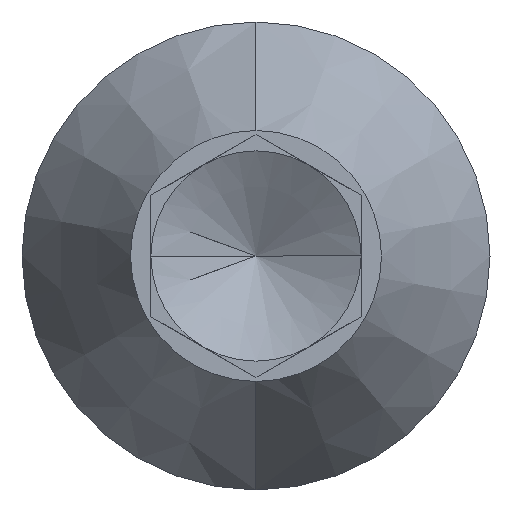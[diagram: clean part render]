
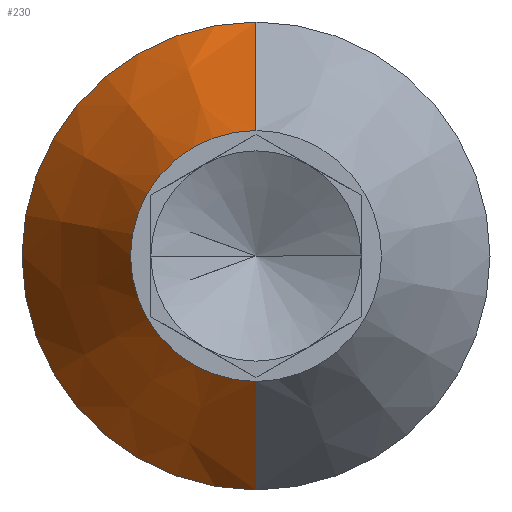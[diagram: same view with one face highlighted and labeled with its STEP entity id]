
A CAD part, left-side view. The second image highlights one B-rep face of the part: STEP entity #230.
In plain terms, the highlighted conical face has half-angle 30 degrees and reference radius 1.753 mm.
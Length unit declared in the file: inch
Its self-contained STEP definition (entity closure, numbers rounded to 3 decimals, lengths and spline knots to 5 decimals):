
#226 = EDGE_LOOP ( 'NONE', ( #232, #253, #250, #248 ) ) ;
#227 = VERTEX_POINT ( 'NONE', #729 ) ;
#230 = ADVANCED_FACE ( 'NONE', ( #783 ), #782, .T. ) ;
#232 = ORIENTED_EDGE ( 'NONE', *, *, #240, .F. ) ;
#239 = VERTEX_POINT ( 'NONE', #769 ) ;
#240 = EDGE_CURVE ( 'NONE', #227, #239, #768, .T. ) ;
#246 = VERTEX_POINT ( 'NONE', #818 ) ;
#247 = EDGE_CURVE ( 'NONE', #246, #251, #813, .T. ) ;
#248 = ORIENTED_EDGE ( 'NONE', *, *, #249, .F. ) ;
#249 = EDGE_CURVE ( 'NONE', #239, #246, #814, .T. ) ;
#250 = ORIENTED_EDGE ( 'NONE', *, *, #247, .F. ) ;
#251 = VERTEX_POINT ( 'NONE', #805 ) ;
#252 = EDGE_CURVE ( 'NONE', #227, #251, #804, .T. ) ;
#253 = ORIENTED_EDGE ( 'NONE', *, *, #252, .T. ) ;
#729 = CARTESIAN_POINT ( 'NONE',  ( 0., 0., 0.037 ) ) ;
#764 = DIRECTION ( 'NONE',  ( 0., 0., -1. ) ) ;
#765 = DIRECTION ( 'NONE',  ( -1., 0., 0. ) ) ;
#766 = CARTESIAN_POINT ( 'NONE',  ( 0., 0., 0. ) ) ;
#767 = AXIS2_PLACEMENT_3D ( 'NONE', #766, #765, #764 ) ;
#768 = CIRCLE ( 'NONE', #767, 0.037 ) ;
#769 = CARTESIAN_POINT ( 'NONE',  ( 0., 0., -0.037 ) ) ;
#777 = DIRECTION ( 'NONE',  ( 0., 0., -1. ) ) ;
#778 = DIRECTION ( 'NONE',  ( 1., 0., 0. ) ) ;
#779 = AXIS2_PLACEMENT_3D ( 'NONE', #781, #778, #777 ) ;
#781 = CARTESIAN_POINT ( 'NONE',  ( 0.05543, 0., 0. ) ) ;
#782 = CONICAL_SURFACE ( 'NONE', #779, 0.069, 0.524 ) ;
#783 = FACE_OUTER_BOUND ( 'NONE', #226, .T. ) ;
#801 = DIRECTION ( 'NONE',  ( 0.866, 0., 0.5 ) ) ;
#802 = VECTOR ( 'NONE', #801, 39.37008 ) ;
#803 = CARTESIAN_POINT ( 'NONE',  ( 0.05543, 0., 0.069 ) ) ;
#804 = LINE ( 'NONE', #803, #802 ) ;
#805 = CARTESIAN_POINT ( 'NONE',  ( 0.05543, 0., 0.069 ) ) ;
#806 = DIRECTION ( 'NONE',  ( 0.866, 0., -0.5 ) ) ;
#807 = VECTOR ( 'NONE', #806, 39.37008 ) ;
#808 = CARTESIAN_POINT ( 'NONE',  ( 0.05543, 0., -0.069 ) ) ;
#809 = DIRECTION ( 'NONE',  ( 0., 0., -1. ) ) ;
#810 = DIRECTION ( 'NONE',  ( 1., 0., 0. ) ) ;
#811 = CARTESIAN_POINT ( 'NONE',  ( 0.05543, 0., 0. ) ) ;
#812 = AXIS2_PLACEMENT_3D ( 'NONE', #811, #810, #809 ) ;
#813 = CIRCLE ( 'NONE', #812, 0.069 ) ;
#814 = LINE ( 'NONE', #808, #807 ) ;
#818 = CARTESIAN_POINT ( 'NONE',  ( 0.05543, 0., -0.069 ) ) ;
